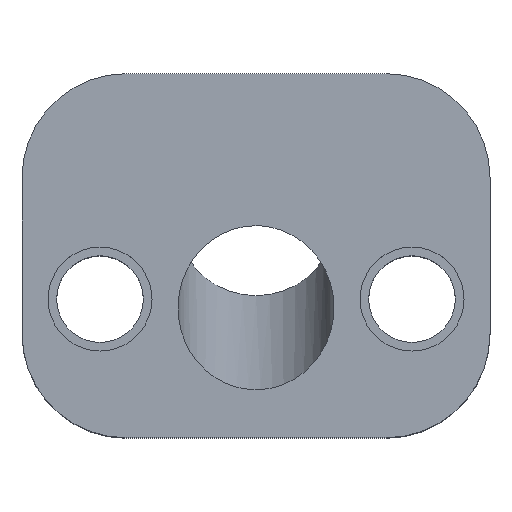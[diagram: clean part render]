
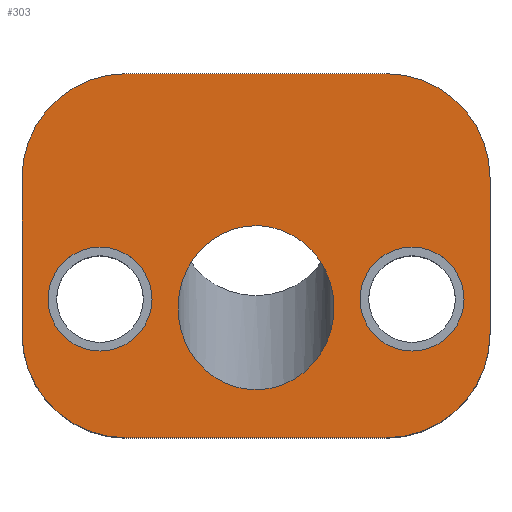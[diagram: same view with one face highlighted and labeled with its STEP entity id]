
A CAD part, top view. The second image highlights one B-rep face of the part: STEP entity #303.
In plain terms, the highlighted planar face has unit normal (0, 0, 1).
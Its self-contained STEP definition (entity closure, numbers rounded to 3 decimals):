
#20=ELLIPSE('',#346,9.463,9.);
#26=PLANE('',#343);
#35=LINE('',#477,#51);
#39=LINE('',#489,#55);
#43=LINE('',#501,#59);
#46=LINE('',#510,#62);
#51=VECTOR('',#380,1000.);
#55=VECTOR('',#392,1000.);
#59=VECTOR('',#404,1000.);
#62=VECTOR('',#415,1000.);
#95=ORIENTED_EDGE('',*,*,#159,.T.);
#96=ORIENTED_EDGE('',*,*,#160,.T.);
#97=ORIENTED_EDGE('',*,*,#161,.T.);
#98=ORIENTED_EDGE('',*,*,#137,.T.);
#99=ORIENTED_EDGE('',*,*,#141,.T.);
#100=ORIENTED_EDGE('',*,*,#144,.T.);
#101=ORIENTED_EDGE('',*,*,#147,.T.);
#102=ORIENTED_EDGE('',*,*,#150,.T.);
#103=ORIENTED_EDGE('',*,*,#153,.T.);
#104=ORIENTED_EDGE('',*,*,#156,.T.);
#105=ORIENTED_EDGE('',*,*,#158,.T.);
#137=EDGE_CURVE('',#174,#173,#200,.T.);
#141=EDGE_CURVE('',#173,#176,#35,.T.);
#144=EDGE_CURVE('',#176,#178,#202,.T.);
#147=EDGE_CURVE('',#178,#180,#39,.T.);
#150=EDGE_CURVE('',#180,#182,#204,.T.);
#153=EDGE_CURVE('',#182,#184,#43,.T.);
#156=EDGE_CURVE('',#184,#186,#206,.T.);
#158=EDGE_CURVE('',#186,#174,#46,.T.);
#159=EDGE_CURVE('',#187,#187,#207,.T.);
#160=EDGE_CURVE('',#188,#188,#208,.T.);
#161=EDGE_CURVE('',#189,#189,#20,.F.);
#173=VERTEX_POINT('',#468);
#174=VERTEX_POINT('',#470);
#176=VERTEX_POINT('',#476);
#178=VERTEX_POINT('',#482);
#180=VERTEX_POINT('',#488);
#182=VERTEX_POINT('',#494);
#184=VERTEX_POINT('',#500);
#186=VERTEX_POINT('',#506);
#187=VERTEX_POINT('',#513);
#188=VERTEX_POINT('',#515);
#189=VERTEX_POINT('',#517);
#200=CIRCLE('',#329,12.);
#202=CIRCLE('',#333,12.);
#204=CIRCLE('',#337,12.);
#206=CIRCLE('',#341,12.);
#207=CIRCLE('',#344,6.);
#208=CIRCLE('',#345,6.);
#225=EDGE_LOOP('',(#95));
#226=EDGE_LOOP('',(#96));
#227=EDGE_LOOP('',(#97));
#228=EDGE_LOOP('',(#98,#99,#100,#101,#102,#103,#104,#105));
#259=FACE_BOUND('',#225,.T.);
#260=FACE_BOUND('',#226,.T.);
#261=FACE_BOUND('',#227,.T.);
#262=FACE_BOUND('',#228,.T.);
#303=ADVANCED_FACE('',(#259,#260,#261,#262),#26,.T.);
#329=AXIS2_PLACEMENT_3D('',#469,#373,#374);
#333=AXIS2_PLACEMENT_3D('',#483,#386,#387);
#337=AXIS2_PLACEMENT_3D('',#495,#398,#399);
#341=AXIS2_PLACEMENT_3D('',#507,#410,#411);
#343=AXIS2_PLACEMENT_3D('',#511,#416,#417);
#344=AXIS2_PLACEMENT_3D('',#512,#418,#419);
#345=AXIS2_PLACEMENT_3D('',#514,#420,#421);
#346=AXIS2_PLACEMENT_3D('',#516,#422,#423);
#373=DIRECTION('',(0.,0.,1.));
#374=DIRECTION('',(1.,0.,0.));
#380=DIRECTION('',(0.,-1.,0.));
#386=DIRECTION('',(0.,0.,1.));
#387=DIRECTION('',(1.,0.,0.));
#392=DIRECTION('',(1.,0.,0.));
#398=DIRECTION('',(0.,0.,1.));
#399=DIRECTION('',(1.,0.,0.));
#404=DIRECTION('',(0.,1.,0.));
#410=DIRECTION('',(0.,0.,1.));
#411=DIRECTION('',(1.,0.,0.));
#415=DIRECTION('',(-1.,0.,0.));
#416=DIRECTION('',(0.,0.,1.));
#417=DIRECTION('',(1.,0.,0.));
#418=DIRECTION('',(0.,0.,-1.));
#419=DIRECTION('',(-1.,0.,0.));
#420=DIRECTION('',(0.,0.,-1.));
#421=DIRECTION('',(-1.,0.,0.));
#422=DIRECTION('',(0.,0.,1.));
#423=DIRECTION('',(0.,1.,0.));
#468=CARTESIAN_POINT('',(0.,30.,36.));
#469=CARTESIAN_POINT('',(12.,30.,36.));
#470=CARTESIAN_POINT('',(12.,42.,36.));
#476=CARTESIAN_POINT('',(0.,12.,36.));
#477=CARTESIAN_POINT('',(0.,30.,36.));
#482=CARTESIAN_POINT('',(12.,0.,36.));
#483=CARTESIAN_POINT('',(12.,12.,36.));
#488=CARTESIAN_POINT('',(42.,0.,36.));
#489=CARTESIAN_POINT('',(12.,0.,36.));
#494=CARTESIAN_POINT('',(54.,12.,36.));
#495=CARTESIAN_POINT('',(42.,12.,36.));
#500=CARTESIAN_POINT('',(54.,30.,36.));
#501=CARTESIAN_POINT('',(54.,12.,36.));
#506=CARTESIAN_POINT('',(42.,42.,36.));
#507=CARTESIAN_POINT('',(42.,30.,36.));
#510=CARTESIAN_POINT('',(42.,42.,36.));
#511=CARTESIAN_POINT('',(12.,30.,36.));
#512=CARTESIAN_POINT('',(9.,16.,36.));
#513=CARTESIAN_POINT('',(3.,16.,36.));
#514=CARTESIAN_POINT('',(45.,16.,36.));
#515=CARTESIAN_POINT('',(39.,16.,36.));
#516=CARTESIAN_POINT('',(27.,15.,36.));
#517=CARTESIAN_POINT('',(27.,24.463,36.));
